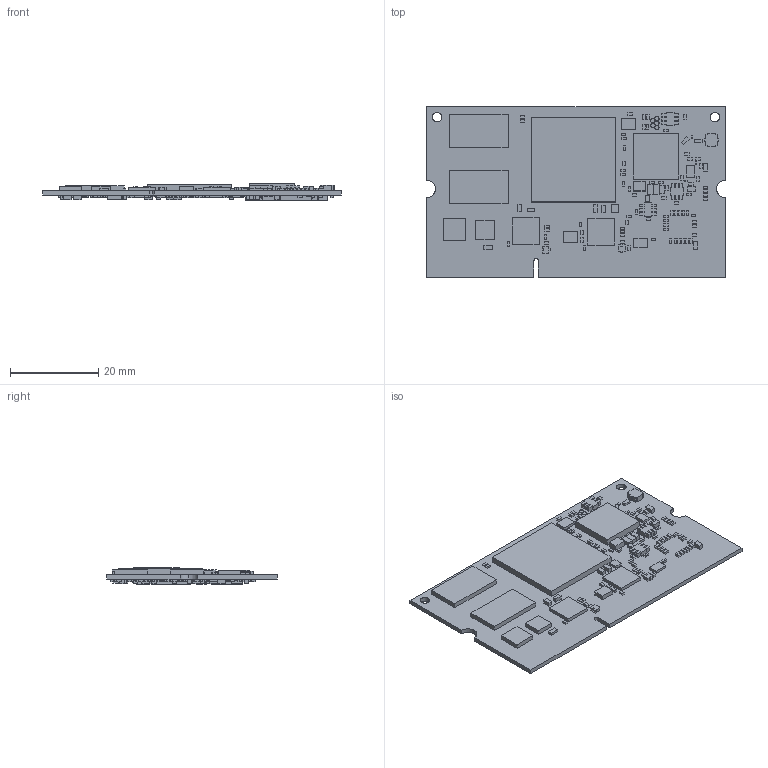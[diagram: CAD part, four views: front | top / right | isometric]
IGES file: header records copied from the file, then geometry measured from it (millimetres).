
Start section: SolidWorks IGES file using analytic representation for surfaces
Global section: file name: D:\VAR-SOM-MX7-5G_V2_1_VPC0408-6U-F-final-BOM_CREATOR.IGS; native system: SolidWorks 2022; preprocessor: SolidWorks 2022; author: Äãñëí; date: 220404.121655; units: millimetre
Bounding box: 67.6 x 38.6 x 3.8 mm (x, y, z)
Surface area: 9141.1 mm2 (no closed solid volume)
Topology: 0 solids, 0 shells, 2344 faces, 10014 edges, 10014 vertices
Faces by surface type: bspline 2320, revolution 24
